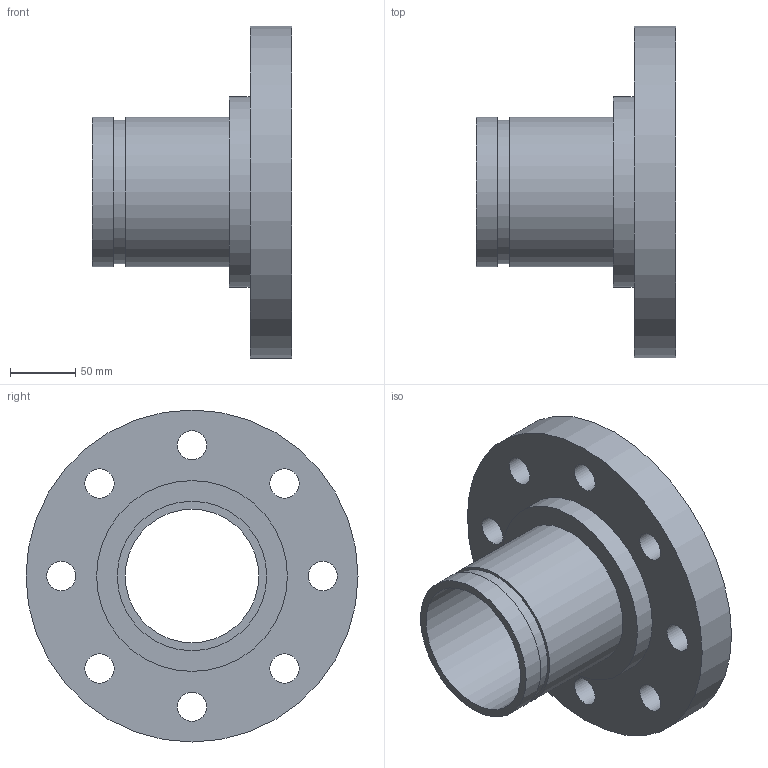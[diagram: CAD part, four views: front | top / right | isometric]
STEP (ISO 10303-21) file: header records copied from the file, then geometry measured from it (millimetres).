
FILE_DESCRIPTION(/* description */ ('VIC FLANGE ADAPTER No 46F','CAx-IF Rec.Pracs.---Representation and Presentation of Product Manufacturing Information (PMI)---4.0---2014-10-13'),/* implementation_level */ '2;1');
FILE_NAME(/* name */ 'C:\Users\kkamble\AppData\Roaming\Autodesk\ApplicationPlugins\Back Up\Victaulic_IPS_Flanged Adapter Nipple_CL 300 FF_No 46F (OGSxFLG)\Victaulic_IPS_Flanged Adapter Nipple_CL 300 FF_No 46F (OGSxFLG)_4 (100).stp',/* time_stamp */ '2020-07-26T22:24:54+06:00',/* author */ ('CONSTRUCTION PIPING SERVICES'),/* organization */ ('Victaulic'),/* preprocessor_version */ 'ST-DEVELOPER v17.2',/* originating_system */ 'Autodesk Inventor 2019',/* authorisation */ '');
FILE_SCHEMA (('AP242_MANAGED_MODEL_BASED_3D_ENGINEERING_MIM_LF { 1 0 10303 442 1 1 4 }'));
Length unit declared in the file: inch
Products named in the file (1): 046F-04.0
Bounding box: 152.4 x 254 x 254 mm (x, y, z)
Volume: 1592237.3 mm3; surface area: 217048.2 mm2
Topology: 1 solids, 1 shells, 20 faces, 54 edges, 40 vertices
Faces by surface type: cylinder 14, plane 6
Full cylindrical faces by diameter (mm): 22.352 x8, 102.26 x1, 110.084 x1, 114.3 x2, 146.05 x1, 254 x1
Entity records: 782 total; most frequent: DIRECTION 136, CARTESIAN_POINT 115, ORIENTED_EDGE 108, AXIS2_PLACEMENT_3D 61, EDGE_CURVE 54, EDGE_LOOP 42, CIRCLE 40, VERTEX_POINT 40
